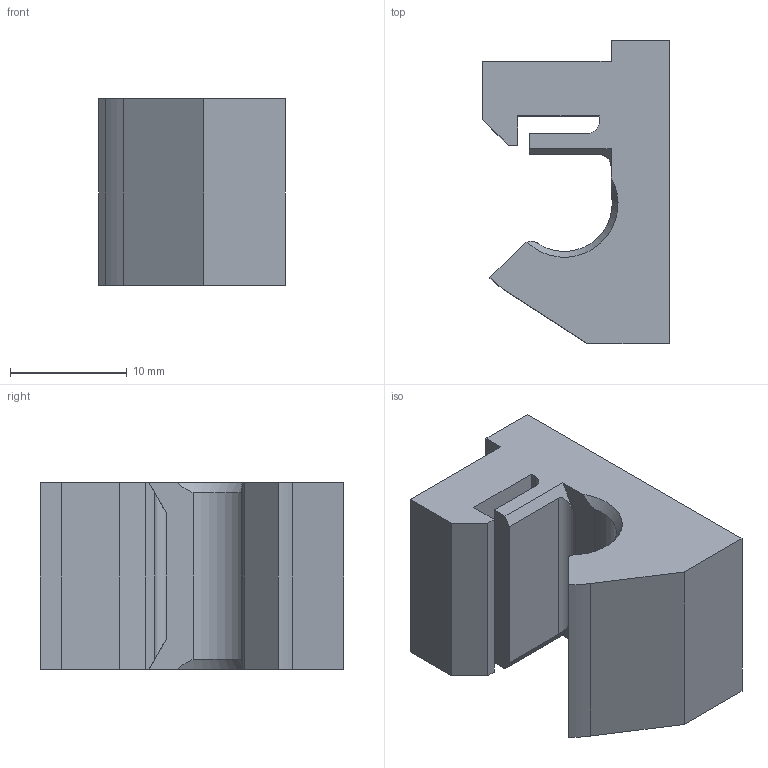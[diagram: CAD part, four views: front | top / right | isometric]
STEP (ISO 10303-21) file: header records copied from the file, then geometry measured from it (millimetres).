
FILE_DESCRIPTION((''),'2;1');
FILE_NAME('14 XEndstop.stp','2016-09-05T12:04:35+00:00',('none'),('none'),'','STEP AP214','none');
FILE_SCHEMA(('AUTOMOTIVE_DESIGN { 1 0 10303 214 1 1 1 1 }'));
Length unit declared in the file: millimetre
Products named in the file (1): Part2
Bounding box: 16 x 26 x 16 mm (x, y, z)
Volume: 3851.1 mm3; surface area: 2670.1 mm2
Topology: 1 solids, 1 shells, 60 faces, 156 edges, 102 vertices
Faces by surface type: plane 41, cylinder 11, cone 8
Entity records: 1804 total; most frequent: CARTESIAN_POINT 365, ORIENTED_EDGE 312, DIRECTION 246, EDGE_CURVE 156, VECTOR 122, LINE 122, VERTEX_POINT 102, AXIS2_PLACEMENT_3D 77
